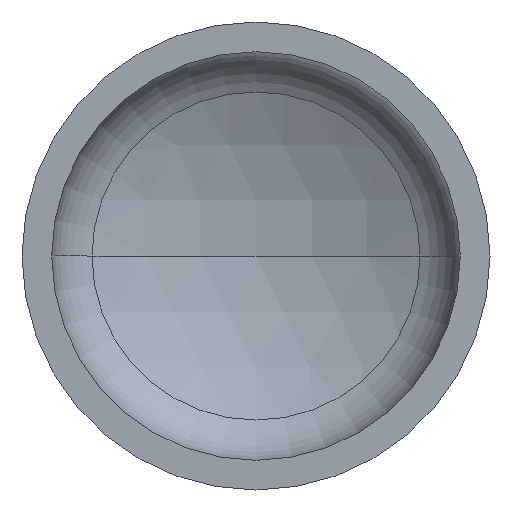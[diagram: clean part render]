
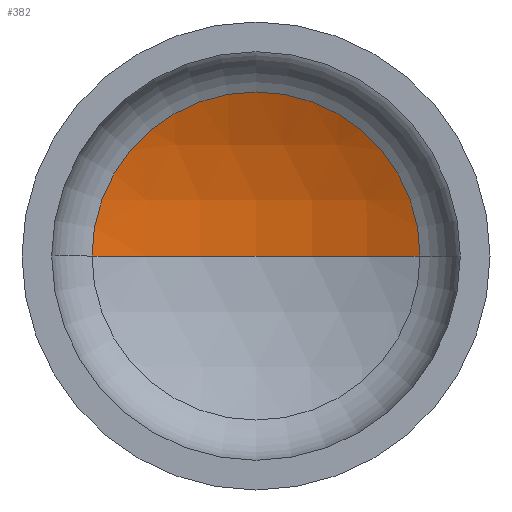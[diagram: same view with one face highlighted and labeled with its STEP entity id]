
A CAD part, front view. The second image highlights one B-rep face of the part: STEP entity #382.
In plain terms, the highlighted spherical face has radius 1360 mm.
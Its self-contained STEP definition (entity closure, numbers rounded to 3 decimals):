
#6 = EDGE_LOOP ( 'NONE', ( #16, #11, #108 ) ) ;
#11 = ORIENTED_EDGE ( 'NONE', *, *, #349, .T. ) ;
#12 = AXIS2_PLACEMENT_3D ( 'NONE', #230, #236, #400 ) ;
#16 = ORIENTED_EDGE ( 'NONE', *, *, #381, .F. ) ;
#17 = VERTEX_POINT ( 'NONE', #284 ) ;
#34 = VERTEX_POINT ( 'NONE', #262 ) ;
#44 = AXIS2_PLACEMENT_3D ( 'NONE', #267, #271, #177 ) ;
#63 = AXIS2_PLACEMENT_3D ( 'NONE', #181, #89, #296 ) ;
#88 = VERTEX_POINT ( 'NONE', #229 ) ;
#89 = DIRECTION ( 'NONE',  ( 0., -1., 0. ) ) ;
#107 = SPHERICAL_SURFACE ( 'NONE', #248, 1360. ) ;
#108 = ORIENTED_EDGE ( 'NONE', *, *, #339, .T. ) ;
#164 = CARTESIAN_POINT ( 'NONE',  ( 0., -913.775, 0. ) ) ;
#177 = DIRECTION ( 'NONE',  ( -1., 0., 0. ) ) ;
#181 = CARTESIAN_POINT ( 'NONE',  ( 0., 308.71, 0. ) ) ;
#183 = DIRECTION ( 'NONE',  ( -1., 0., 0. ) ) ;
#218 = CIRCLE ( 'NONE', #63, 595.927 ) ;
#229 = CARTESIAN_POINT ( 'NONE',  ( 0., 446.225, 0. ) ) ;
#230 = CARTESIAN_POINT ( 'NONE',  ( 0., -913.775, 0. ) ) ;
#236 = DIRECTION ( 'NONE',  ( 0., 0., 1. ) ) ;
#248 = AXIS2_PLACEMENT_3D ( 'NONE', #164, #258, #183 ) ;
#258 = DIRECTION ( 'NONE',  ( 0., 0., -1. ) ) ;
#260 = CIRCLE ( 'NONE', #12, 1360. ) ;
#262 = CARTESIAN_POINT ( 'NONE',  ( 595.927, 308.71, 0. ) ) ;
#267 = CARTESIAN_POINT ( 'NONE',  ( 0., -913.775, 0. ) ) ;
#271 = DIRECTION ( 'NONE',  ( 0., 0., -1. ) ) ;
#284 = CARTESIAN_POINT ( 'NONE',  ( -595.927, 308.71, 0. ) ) ;
#296 = DIRECTION ( 'NONE',  ( 1., 0., 0. ) ) ;
#337 = CIRCLE ( 'NONE', #44, 1360. ) ;
#339 = EDGE_CURVE ( 'NONE', #34, #17, #218, .T. ) ;
#349 = EDGE_CURVE ( 'NONE', #88, #34, #337, .T. ) ;
#381 = EDGE_CURVE ( 'NONE', #88, #17, #260, .T. ) ;
#382 = ADVANCED_FACE ( 'NONE', ( #387 ), #107, .F. ) ;
#387 = FACE_OUTER_BOUND ( 'NONE', #6, .T. ) ;
#400 = DIRECTION ( 'NONE',  ( 1., 0., 0. ) ) ;
